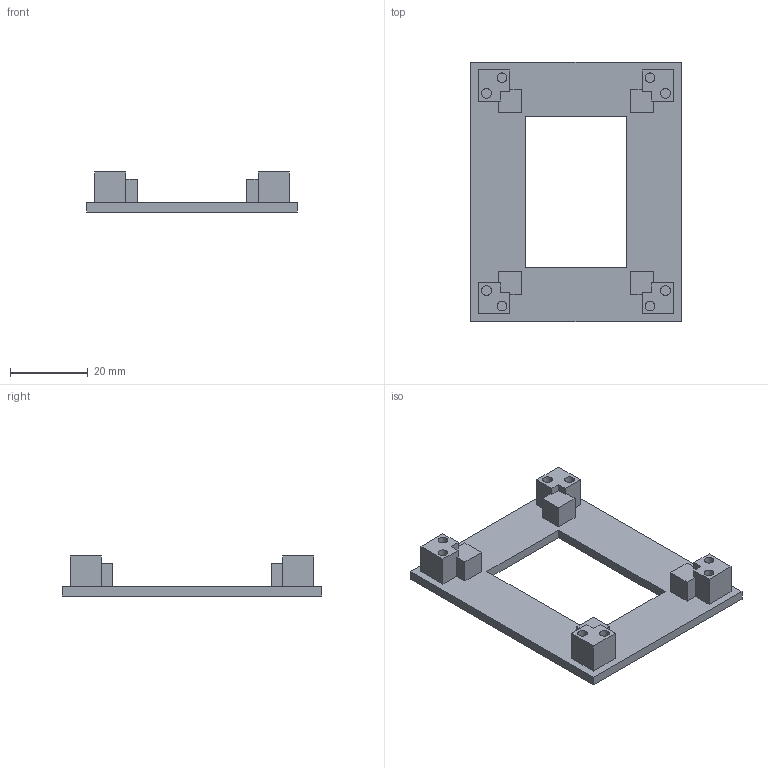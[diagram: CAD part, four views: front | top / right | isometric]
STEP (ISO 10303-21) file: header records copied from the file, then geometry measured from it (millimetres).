
FILE_DESCRIPTION(('Open CASCADE Model'),'2;1');
FILE_NAME('Open CASCADE Shape Model','2026-10-08T14:25:45',('Author'),( 'Open CASCADE'),'Open CASCADE STEP processor 7.9','Open CASCADE 7.9' ,'Unknown');
FILE_SCHEMA(('AUTOMOTIVE_DESIGN { 1 0 10303 214 1 1 1 1 }'));
Length unit declared in the file: millimetre
Products named in the file (1): Open CASCADE STEP translator 7.9 3
Bounding box: 54.1 x 66.8 x 10.3 mm (x, y, z)
Volume: 8587 mm3; surface area: 7839.5 mm2
Topology: 1 solids, 1 shells, 74 faces, 180 edges, 120 vertices
Faces by surface type: plane 66, cylinder 8
Full cylindrical faces by diameter (mm): 2.5 x8
Entity records: 4414 total; most frequent: CARTESIAN_POINT 815, DIRECTION 626, LINE 428, VECTOR 428, ORIENTED_EDGE 360, PCURVE 360, DEFINITIONAL_REPRESENTATION 360, EDGE_CURVE 180
